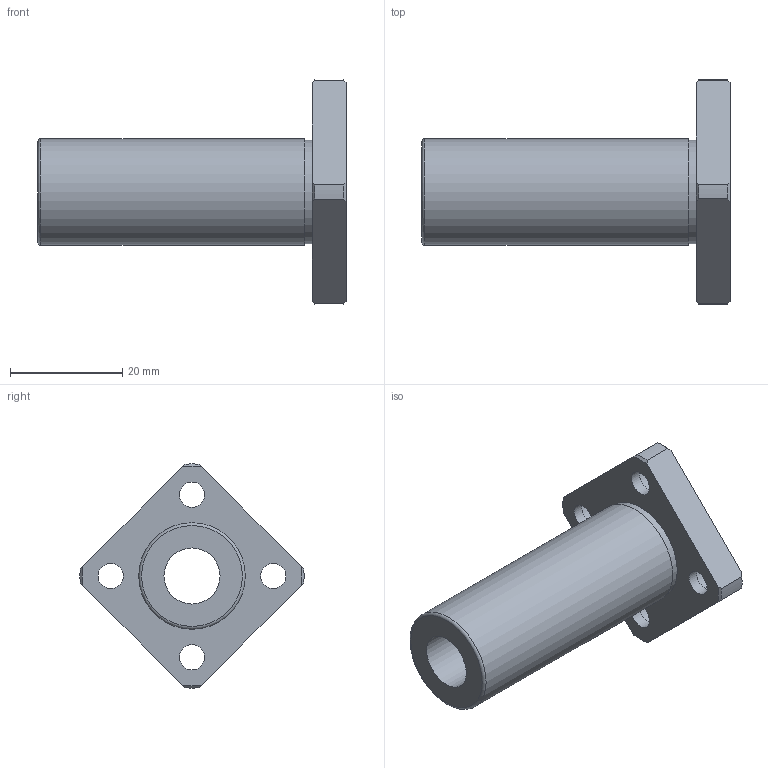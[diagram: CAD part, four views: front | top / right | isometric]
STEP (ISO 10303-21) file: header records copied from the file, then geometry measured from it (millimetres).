
FILE_DESCRIPTION(('STEP AP203'),'1');
FILE_NAME('//192.168.1.1/share/s-4 技術開発/s-4-4_CAD/s-4-4-3_見直し済み/002 修正済み/NFES-VL/NFES-VL_TOP/NFES-10VLUU.step','2022-03-08T00:55:29',(' '),(' '),'Spatial InterOp 3D',' ',' ');
FILE_SCHEMA(('CONFIG_CONTROL_DESIGN'));
Length unit declared in the file: millimetre
Products named in the file (1): 1
Bounding box: 55 x 39.99 x 39.99 mm (x, y, z)
Volume: 14066.2 mm3; surface area: 7353.6 mm2
Topology: 1 solids, 1 shells, 36 faces, 89 edges, 61 vertices
Faces by surface type: cylinder 15, plane 12, cone 8, torus 1
Full cylindrical faces by diameter (mm): 4.5 x4, 7.5 x4, 10 x1, 18.5 x1, 19 x1
Entity records: 1058 total; most frequent: CARTESIAN_POINT 211, DIRECTION 168, ORIENTED_EDGE 142, AXIS2_PLACEMENT_3D 76, EDGE_CURVE 71, EDGE_LOOP 64, VERTEX_POINT 55, FACE_OUTER_BOUND 48
